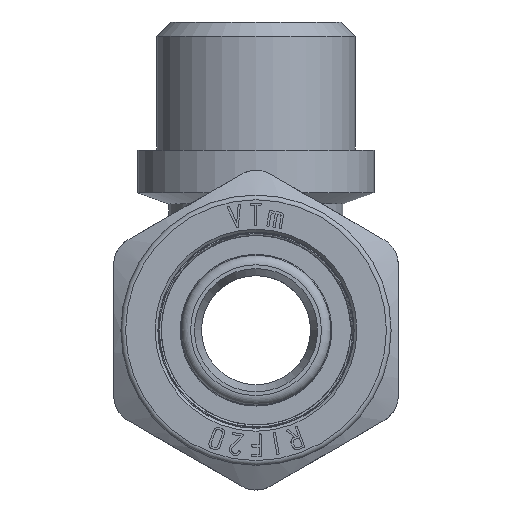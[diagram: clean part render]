
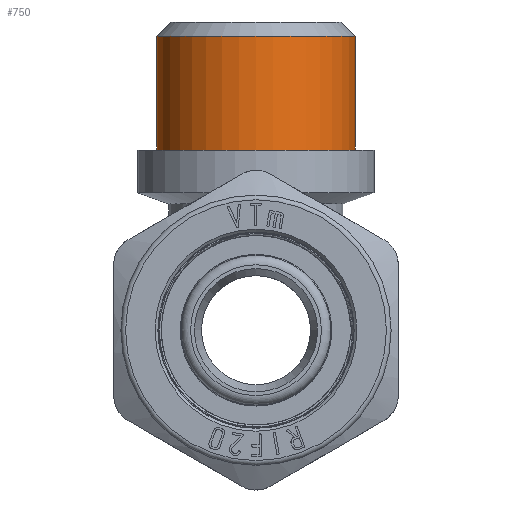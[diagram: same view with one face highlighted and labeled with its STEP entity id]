
A CAD part, front view. The second image highlights one B-rep face of the part: STEP entity #750.
In plain terms, the highlighted cylindrical face has radius 10.477 mm (diameter 20.955 mm), a full revolution.
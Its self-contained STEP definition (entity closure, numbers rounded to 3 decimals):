
#750=ADVANCED_FACE('',(#5718,#5720),#5722,.T.);
#5718=FACE_OUTER_BOUND('',#5719,.T.);
#5719=EDGE_LOOP('',(#10735));
#5720=FACE_OUTER_BOUND('',#5721,.T.);
#5721=EDGE_LOOP('',(#10736));
#5722=CYLINDRICAL_SURFACE('',#5723,10.478);
#5723=AXIS2_PLACEMENT_3D('',#5724,#5725,#5726);
#5724=CARTESIAN_POINT('',(0.,0.,19.));
#5725=DIRECTION('',(0.,0.,1.));
#5726=DIRECTION('',(-1.,0.,0.));
#10735=ORIENTED_EDGE('',*,*,#12908,.F.);
#10736=ORIENTED_EDGE('',*,*,#12586,.F.);
#12586=EDGE_CURVE('',#15697,#15697,#15698,.F.);
#12908=EDGE_CURVE('',#16181,#16181,#16182,.T.);
#15697=VERTEX_POINT('',#25942);
#15698=CIRCLE('',#25943,10.478);
#16181=VERTEX_POINT('',#27074);
#16182=CIRCLE('',#27075,10.478);
#25942=CARTESIAN_POINT('',(-10.478,0.,19.));
#25943=AXIS2_PLACEMENT_3D('',#25944,#25945,#25946);
#25944=CARTESIAN_POINT('',(0.,0.,19.));
#25945=DIRECTION('',(0.,0.,1.));
#25946=DIRECTION('',(-1.,0.,0.));
#27074=CARTESIAN_POINT('',(-10.478,0.,31.));
#27075=AXIS2_PLACEMENT_3D('',#27076,#27077,#27078);
#27076=CARTESIAN_POINT('',(0.,0.,31.));
#27077=DIRECTION('',(0.,0.,1.));
#27078=DIRECTION('',(-1.,0.,0.));
